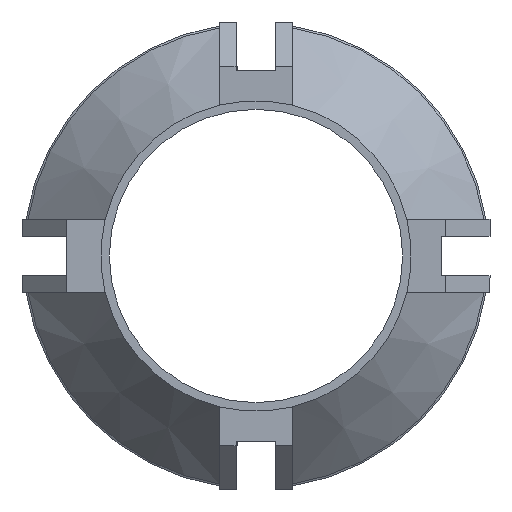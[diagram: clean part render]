
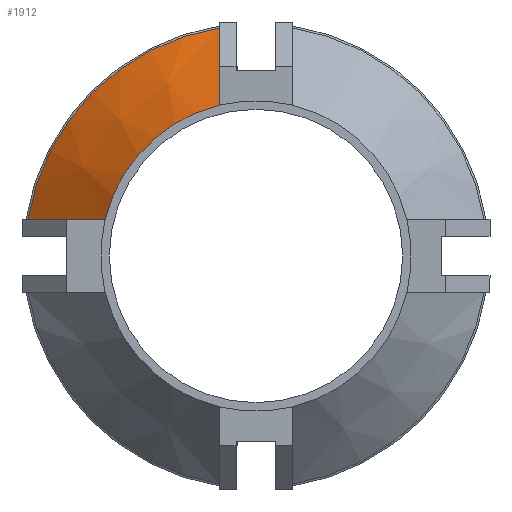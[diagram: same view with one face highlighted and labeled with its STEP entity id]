
A CAD part, front view. The second image highlights one B-rep face of the part: STEP entity #1912.
In plain terms, the highlighted conical face has half-angle 45 degrees and reference radius 4.763 mm.
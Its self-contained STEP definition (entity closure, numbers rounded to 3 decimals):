
#94 = CONICAL_SURFACE ( 'NONE', #1995, 4.763, 0.785 ) ;
#124 = EDGE_CURVE ( 'NONE', #2242, #3947, #1765, .T. ) ;
#195 = ORIENTED_EDGE ( 'NONE', *, *, #2285, .F. ) ;
#283 = ORIENTED_EDGE ( 'NONE', *, *, #2600, .F. ) ;
#320 = DIRECTION ( 'NONE',  ( 0., 0., -1. ) ) ;
#505 = CIRCLE ( 'NONE', #1931, 4.724 ) ;
#540 = CARTESIAN_POINT ( 'NONE',  ( -0.75, -7.874, 3.086 ) ) ;
#643 = CIRCLE ( 'NONE', #3837, 3.175 ) ;
#694 = ORIENTED_EDGE ( 'NONE', *, *, #2211, .F. ) ;
#717 = CARTESIAN_POINT ( 'NONE',  ( -3.614, -7.36, 0.75 ) ) ;
#790 = CARTESIAN_POINT ( 'NONE',  ( 0., -6.287, 0. ) ) ;
#996 = DIRECTION ( 'NONE',  ( 0., -1., 0. ) ) ;
#1068 = DIRECTION ( 'NONE',  ( 0., 1., 0. ) ) ;
#1106 = FACE_OUTER_BOUND ( 'NONE', #2627, .T. ) ;
#1151 = CARTESIAN_POINT ( 'NONE',  ( -0.75, -6.843, 4.139 ) ) ;
#1256 = ORIENTED_EDGE ( 'NONE', *, *, #124, .T. ) ;
#1539 = CARTESIAN_POINT ( 'NONE',  ( -0.75, -7.36, 3.614 ) ) ;
#1565 = CARTESIAN_POINT ( 'NONE',  ( -0.75, -6.326, 4.664 ) ) ;
#1617 = B_SPLINE_CURVE_WITH_KNOTS ( 'NONE', 3,
 ( #2310, #717, #2611, #3337 ),
 .UNSPECIFIED., .F., .F.,
 ( 4, 4 ),
 ( 0.002, 0.004 ),
 .UNSPECIFIED. ) ;
#1765 = B_SPLINE_CURVE_WITH_KNOTS ( 'NONE', 3,
 ( #540, #1539, #1151, #2141 ),
 .UNSPECIFIED., .F., .F.,
 ( 4, 4 ),
 ( 0.006, 0.008 ),
 .UNSPECIFIED. ) ;
#1912 = ADVANCED_FACE ( 'NONE', ( #1106 ), #94, .T. ) ;
#1931 = AXIS2_PLACEMENT_3D ( 'NONE', #3622, #2253, #320 ) ;
#1995 = AXIS2_PLACEMENT_3D ( 'NONE', #790, #1068, #2090 ) ;
#2090 = DIRECTION ( 'NONE',  ( 0., 0., 1. ) ) ;
#2141 = CARTESIAN_POINT ( 'NONE',  ( -0.75, -6.326, 4.664 ) ) ;
#2211 = EDGE_CURVE ( 'NONE', #3393, #3947, #505, .T. ) ;
#2242 = VERTEX_POINT ( 'NONE', #4225 ) ;
#2253 = DIRECTION ( 'NONE',  ( 0., 1., 0. ) ) ;
#2285 = EDGE_CURVE ( 'NONE', #2242, #3872, #643, .T. ) ;
#2310 = CARTESIAN_POINT ( 'NONE',  ( -3.086, -7.874, 0.75 ) ) ;
#2600 = EDGE_CURVE ( 'NONE', #3872, #3393, #1617, .T. ) ;
#2611 = CARTESIAN_POINT ( 'NONE',  ( -4.139, -6.843, 0.75 ) ) ;
#2627 = EDGE_LOOP ( 'NONE', ( #1256, #694, #283, #195 ) ) ;
#3309 = CARTESIAN_POINT ( 'NONE',  ( -4.664, -6.326, 0.75 ) ) ;
#3337 = CARTESIAN_POINT ( 'NONE',  ( -4.664, -6.326, 0.75 ) ) ;
#3393 = VERTEX_POINT ( 'NONE', #3309 ) ;
#3425 = DIRECTION ( 'NONE',  ( 0., 0., 1. ) ) ;
#3622 = CARTESIAN_POINT ( 'NONE',  ( 0., -6.326, 0. ) ) ;
#3837 = AXIS2_PLACEMENT_3D ( 'NONE', #3923, #996, #3425 ) ;
#3872 = VERTEX_POINT ( 'NONE', #4075 ) ;
#3923 = CARTESIAN_POINT ( 'NONE',  ( 0., -7.874, 0. ) ) ;
#3947 = VERTEX_POINT ( 'NONE', #1565 ) ;
#4075 = CARTESIAN_POINT ( 'NONE',  ( -3.086, -7.874, 0.75 ) ) ;
#4225 = CARTESIAN_POINT ( 'NONE',  ( -0.75, -7.874, 3.086 ) ) ;
